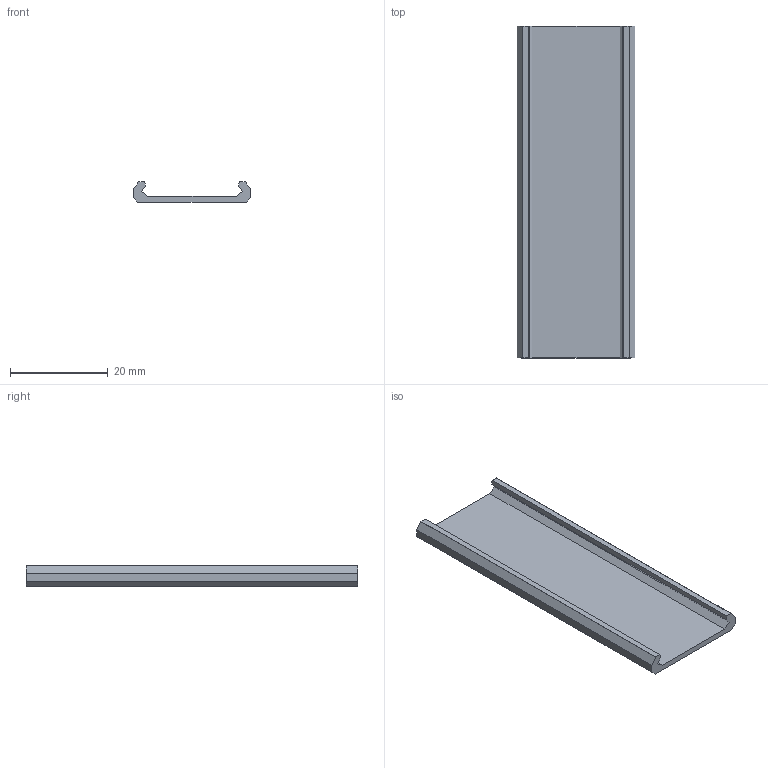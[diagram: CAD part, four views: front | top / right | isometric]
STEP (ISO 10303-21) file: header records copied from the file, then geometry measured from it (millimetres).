
FILE_DESCRIPTION(('Open CASCADE Model'),'2;1');
FILE_NAME('Open CASCADE Shape Model','2026-09-17T12:25:04',('Author'),( 'Open CASCADE'),'Open CASCADE STEP processor 7.9','build123d', 'Unknown');
FILE_SCHEMA(('AUTOMOTIVE_DESIGN { 1 0 10303 214 1 1 1 1 }'));
Length unit declared in the file: millimetre
Products named in the file (2): =>[0:1:1:2]; SOLID
Assembly tree (1 placements, depth 2):
  =>[0:1:1:2]
    SOLID
Bounding box: 24.14 x 68 x 4.2 mm (x, y, z)
Volume: 2715.6 mm3; surface area: 4203.7 mm2
Topology: 1 solids, 1 shells, 20 faces, 54 edges, 36 vertices
Faces by surface type: plane 20
Entity records: 1348 total; most frequent: CARTESIAN_POINT 220, DIRECTION 206, LINE 162, VECTOR 162, ORIENTED_EDGE 108, PCURVE 108, DEFINITIONAL_REPRESENTATION 108, EDGE_CURVE 54
